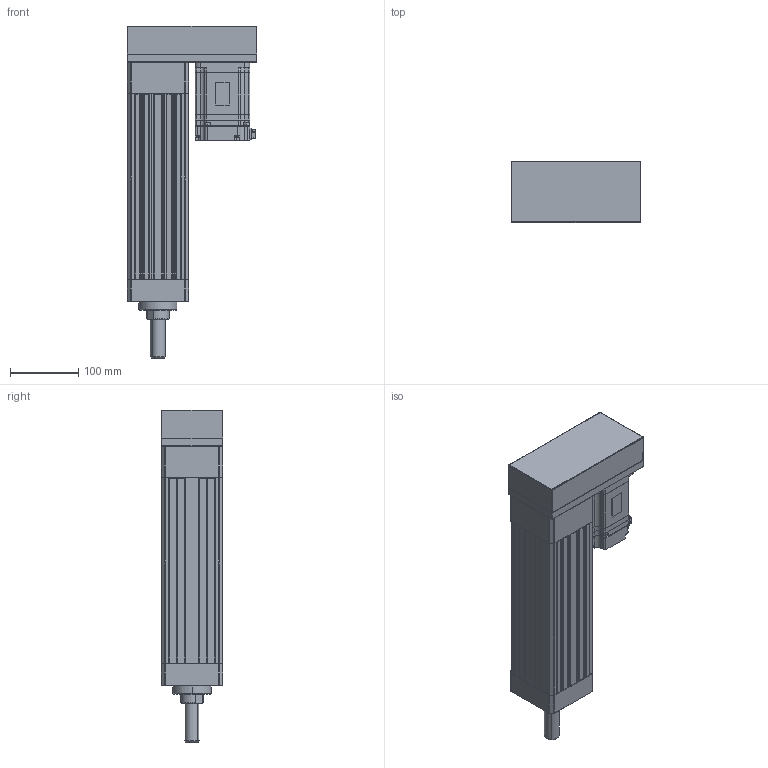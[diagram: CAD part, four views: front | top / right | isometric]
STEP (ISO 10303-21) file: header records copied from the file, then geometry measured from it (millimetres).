
FILE_DESCRIPTION (( 'STEP AP203' ), '1' );
FILE_NAME ('ANS090R-P150-05(10)(20)-W75-M.STEP', '2019-03-02T10:13:01', ( 'user' ), ( '' ), 'SwSTEP 2.0', 'SolidWorks 2013', '' );
FILE_SCHEMA (( 'CONFIG_CONTROL_DESIGN' ));
Length unit declared in the file: millimetre
Products named in the file (4): SGMJV_08A_A21; ANS090 ROD ST150-M; ANS090R-P150-05(10)(20)-W75-M; ANS090R P150 VER2
Assembly tree (3 placements, depth 2):
  ANS090R-P150-05(10)(20)-W75-M
    ANS090R P150 VER2
    SGMJV_08A_A21
    ANS090 ROD ST150-M
Bounding box: 190 x 90 x 486 mm (x, y, z)
Volume: 2559610.7 mm3; surface area: 463401.4 mm2
Topology: 3 solids, 3 shells, 1078 faces, 2857 edges, 1838 vertices
Faces by surface type: plane 646, cylinder 346, cone 74, bspline 8, sphere 4
Entity records: 33969 total; most frequent: CARTESIAN_POINT 6617, ORIENTED_EDGE 5674, DIRECTION 5555, EDGE_CURVE 2837, VECTOR 1987, LINE 1987, VERTEX_POINT 1838, AXIS2_PLACEMENT_3D 1784
